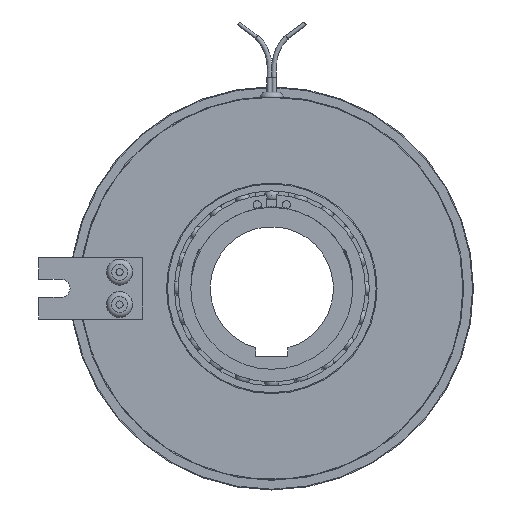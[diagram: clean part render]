
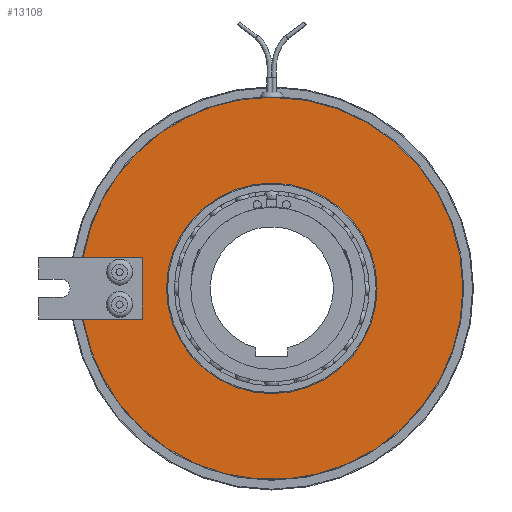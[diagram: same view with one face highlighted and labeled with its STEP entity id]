
A CAD part, left-side view. The second image highlights one B-rep face of the part: STEP entity #13108.
In plain terms, the highlighted planar face has unit normal (-1, 0, 0).
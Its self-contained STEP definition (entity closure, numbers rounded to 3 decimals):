
#309=FACE_BOUND('',#2000,.T.);
#518=PLANE('',#14125);
#1316=FACE_OUTER_BOUND('',#1999,.T.);
#1999=EDGE_LOOP('',(#9144,#9145,#9146,#9147,#9148,#9149));
#2000=EDGE_LOOP('',(#9150,#9151));
#2651=CIRCLE('',#13629,59.);
#2654=CIRCLE('',#13632,59.);
#2999=CIRCLE('',#14126,59.);
#3000=CIRCLE('',#14127,32.5);
#3001=CIRCLE('',#14128,32.5);
#3991=LINE('',#20788,#4372);
#3992=LINE('',#20791,#4373);
#3993=LINE('',#20792,#4374);
#4372=VECTOR('',#16653,10.);
#4373=VECTOR('',#16656,10.);
#4374=VECTOR('',#16657,10.);
#4627=VERTEX_POINT('',#19704);
#4628=VERTEX_POINT('',#19706);
#4630=VERTEX_POINT('',#19710);
#4631=VERTEX_POINT('',#19712);
#5006=VERTEX_POINT('',#20787);
#5007=VERTEX_POINT('',#20790);
#5008=VERTEX_POINT('',#20793);
#5009=VERTEX_POINT('',#20794);
#6115=EDGE_CURVE('',#4628,#4627,#2651,.T.);
#6118=EDGE_CURVE('',#4631,#4630,#2654,.T.);
#6624=EDGE_CURVE('',#5006,#4628,#3991,.T.);
#6625=EDGE_CURVE('',#4627,#4631,#2999,.T.);
#6626=EDGE_CURVE('',#4630,#5007,#3992,.T.);
#6627=EDGE_CURVE('',#5007,#5006,#3993,.T.);
#6628=EDGE_CURVE('',#5008,#5009,#3000,.T.);
#6629=EDGE_CURVE('',#5009,#5008,#3001,.T.);
#9144=ORIENTED_EDGE('',*,*,#6624,.T.);
#9145=ORIENTED_EDGE('',*,*,#6115,.T.);
#9146=ORIENTED_EDGE('',*,*,#6625,.T.);
#9147=ORIENTED_EDGE('',*,*,#6118,.T.);
#9148=ORIENTED_EDGE('',*,*,#6626,.T.);
#9149=ORIENTED_EDGE('',*,*,#6627,.T.);
#9150=ORIENTED_EDGE('',*,*,#6628,.F.);
#9151=ORIENTED_EDGE('',*,*,#6629,.F.);
#13108=ADVANCED_FACE('',(#1316,#309),#518,.T.);
#13629=AXIS2_PLACEMENT_3D('',#19707,#15513,#15514);
#13632=AXIS2_PLACEMENT_3D('',#19713,#15519,#15520);
#14125=AXIS2_PLACEMENT_3D('',#20786,#16651,#16652);
#14126=AXIS2_PLACEMENT_3D('',#20789,#16654,#16655);
#14127=AXIS2_PLACEMENT_3D('',#20795,#16658,#16659);
#14128=AXIS2_PLACEMENT_3D('',#20796,#16660,#16661);
#15513=DIRECTION('center_axis',(-1.,0.,0.));
#15514=DIRECTION('ref_axis',(0.,1.,0.));
#15519=DIRECTION('center_axis',(-1.,0.,0.));
#15520=DIRECTION('ref_axis',(0.,1.,0.));
#16651=DIRECTION('center_axis',(-1.,0.,0.));
#16652=DIRECTION('ref_axis',(0.,0.,
1.));
#16653=DIRECTION('',(0.,1.,0.));
#16654=DIRECTION('center_axis',(-1.,0.,0.));
#16655=DIRECTION('ref_axis',(0.,1.,0.));
#16656=DIRECTION('',(0.,-1.,0.));
#16657=DIRECTION('',(0.,0.,-1.));
#16658=DIRECTION('center_axis',(-1.,0.,0.));
#16659=DIRECTION('ref_axis',(0.,1.,0.));
#16660=DIRECTION('center_axis',(-1.,0.,0.));
#16661=DIRECTION('ref_axis',(0.,1.,0.));
#19704=CARTESIAN_POINT('',(-17.95,-59.,0.));
#19706=CARTESIAN_POINT('',(-17.95,58.23,-9.5));
#19707=CARTESIAN_POINT('Origin',(-17.95,0.,0.));
#19710=CARTESIAN_POINT('',(-17.95,58.23,9.5));
#19712=CARTESIAN_POINT('',(-17.95,0.,59.));
#19713=CARTESIAN_POINT('Origin',(-17.95,0.,0.));
#20786=CARTESIAN_POINT('Origin',(-17.95,45.75,0.));
#20787=CARTESIAN_POINT('',(-17.95,40.,-9.5));
#20788=CARTESIAN_POINT('',(-17.95,42.875,-9.5));
#20789=CARTESIAN_POINT('Origin',(-17.95,0.,0.));
#20790=CARTESIAN_POINT('',(-17.95,40.,9.5));
#20791=CARTESIAN_POINT('',(-17.95,58.875,9.5));
#20792=CARTESIAN_POINT('',(-17.95,40.,4.75));
#20793=CARTESIAN_POINT('',(-17.95,32.5,0.));
#20794=CARTESIAN_POINT('',(-17.95,-32.5,0.));
#20795=CARTESIAN_POINT('Origin',(-17.95,0.,0.));
#20796=CARTESIAN_POINT('Origin',(-17.95,0.,0.));
